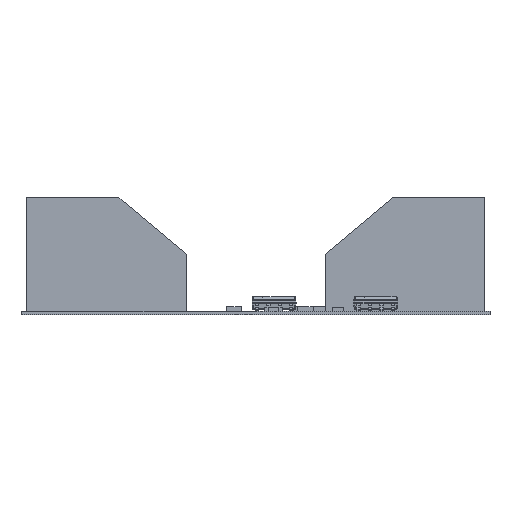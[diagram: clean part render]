
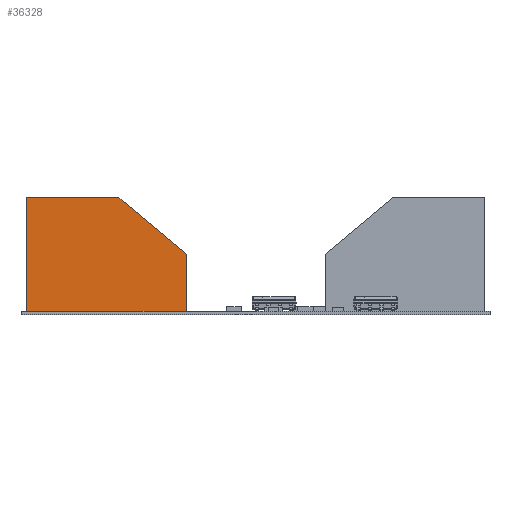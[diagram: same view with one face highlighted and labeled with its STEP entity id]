
A CAD part, left-side view. The second image highlights one B-rep face of the part: STEP entity #36328.
In plain terms, the highlighted planar face has unit normal (-1, 0, 0) as drawn and (0, 0, 1) by its records, which use the part's own axes.
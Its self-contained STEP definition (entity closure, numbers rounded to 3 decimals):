
#35765 = VERTEX_POINT('',#35766);
#35766 = CARTESIAN_POINT('',(-16.51,0.,9.525));
#35773 = PLANE('',#35774);
#35774 = AXIS2_PLACEMENT_3D('',#35775,#35776,#35777);
#35775 = CARTESIAN_POINT('',(-16.51,12.7,-3.175));
#35776 = DIRECTION('',(1.,0.,0.));
#35777 = DIRECTION('',(0.,0.,-1.));
#35785 = PLANE('',#35786);
#35786 = AXIS2_PLACEMENT_3D('',#35787,#35788,#35789);
#35787 = CARTESIAN_POINT('',(-16.51,0.,9.525));
#35788 = DIRECTION('',(0.,1.,0.));
#35789 = DIRECTION('',(0.,0.,1.));
#35797 = EDGE_CURVE('',#35798,#35765,#35800,.T.);
#35798 = VERTEX_POINT('',#35799);
#35799 = CARTESIAN_POINT('',(-16.51,12.7,9.525));
#35800 = SURFACE_CURVE('',#35801,(#35805,#35812),.PCURVE_S1.);
#35801 = LINE('',#35802,#35803);
#35802 = CARTESIAN_POINT('',(-16.51,12.7,9.525));
#35803 = VECTOR('',#35804,1.);
#35804 = DIRECTION('',(0.,-1.,0.));
#35805 = PCURVE('',#35773,#35806);
#35806 = DEFINITIONAL_REPRESENTATION('',(#35807),#35811);
#35807 = LINE('',#35808,#35809);
#35808 = CARTESIAN_POINT('',(-12.7,0.));
#35809 = VECTOR('',#35810,1.);
#35810 = DIRECTION('',(0.,-1.));
#35811 = ( GEOMETRIC_REPRESENTATION_CONTEXT(2) 
PARAMETRIC_REPRESENTATION_CONTEXT() REPRESENTATION_CONTEXT('2D SPACE',''
  ) );
#35812 = PCURVE('',#35813,#35818);
#35813 = PLANE('',#35814);
#35814 = AXIS2_PLACEMENT_3D('',#35815,#35816,#35817);
#35815 = CARTESIAN_POINT('',(-16.51,12.7,9.525));
#35816 = DIRECTION('',(0.,0.,-1.));
#35817 = DIRECTION('',(-1.,0.,0.));
#35818 = DEFINITIONAL_REPRESENTATION('',(#35819),#35823);
#35819 = LINE('',#35820,#35821);
#35820 = CARTESIAN_POINT('',(0.,0.));
#35821 = VECTOR('',#35822,1.);
#35822 = DIRECTION('',(0.,-1.));
#35823 = ( GEOMETRIC_REPRESENTATION_CONTEXT(2) 
PARAMETRIC_REPRESENTATION_CONTEXT() REPRESENTATION_CONTEXT('2D SPACE',''
  ) );
#35841 = PLANE('',#35842);
#35842 = AXIS2_PLACEMENT_3D('',#35843,#35844,#35845);
#35843 = CARTESIAN_POINT('',(-16.51,12.7,9.525));
#35844 = DIRECTION('',(0.,1.,0.));
#35845 = DIRECTION('',(0.,0.,1.));
#36328 = ADVANCED_FACE('',(#36329),#35813,.F.);
#36329 = FACE_BOUND('',#36330,.T.);
#36330 = EDGE_LOOP('',(#36331,#36361,#36382,#36383,#36406));
#36331 = ORIENTED_EDGE('',*,*,#36332,.T.);
#36332 = EDGE_CURVE('',#36333,#36335,#36337,.T.);
#36333 = VERTEX_POINT('',#36334);
#36334 = CARTESIAN_POINT('',(1.27,6.35,9.525));
#36335 = VERTEX_POINT('',#36336);
#36336 = CARTESIAN_POINT('',(-6.35,12.7,9.525));
#36337 = SURFACE_CURVE('',#36338,(#36342,#36349),.PCURVE_S1.);
#36338 = LINE('',#36339,#36340);
#36339 = CARTESIAN_POINT('',(1.27,6.35,9.525));
#36340 = VECTOR('',#36341,1.);
#36341 = DIRECTION('',(-0.768,0.64,0.));
#36342 = PCURVE('',#35813,#36343);
#36343 = DEFINITIONAL_REPRESENTATION('',(#36344),#36348);
#36344 = LINE('',#36345,#36346);
#36345 = CARTESIAN_POINT('',(-17.78,-6.35));
#36346 = VECTOR('',#36347,1.);
#36347 = DIRECTION('',(0.768,0.64));
#36348 = ( GEOMETRIC_REPRESENTATION_CONTEXT(2) 
PARAMETRIC_REPRESENTATION_CONTEXT() REPRESENTATION_CONTEXT('2D SPACE',''
  ) );
#36349 = PCURVE('',#36350,#36355);
#36350 = PLANE('',#36351);
#36351 = AXIS2_PLACEMENT_3D('',#36352,#36353,#36354);
#36352 = CARTESIAN_POINT('',(1.27,6.35,-3.175));
#36353 = DIRECTION('',(0.64,0.768,0.));
#36354 = DIRECTION('',(-0.768,0.64,0.));
#36355 = DEFINITIONAL_REPRESENTATION('',(#36356),#36360);
#36356 = LINE('',#36357,#36358);
#36357 = CARTESIAN_POINT('',(0.,12.7));
#36358 = VECTOR('',#36359,1.);
#36359 = DIRECTION('',(1.,0.));
#36360 = ( GEOMETRIC_REPRESENTATION_CONTEXT(2) 
PARAMETRIC_REPRESENTATION_CONTEXT() REPRESENTATION_CONTEXT('2D SPACE',''
  ) );
#36361 = ORIENTED_EDGE('',*,*,#36362,.F.);
#36362 = EDGE_CURVE('',#35798,#36335,#36363,.T.);
#36363 = SURFACE_CURVE('',#36364,(#36368,#36375),.PCURVE_S1.);
#36364 = LINE('',#36365,#36366);
#36365 = CARTESIAN_POINT('',(-16.51,12.7,9.525));
#36366 = VECTOR('',#36367,1.);
#36367 = DIRECTION('',(1.,0.,0.));
#36368 = PCURVE('',#35813,#36369);
#36369 = DEFINITIONAL_REPRESENTATION('',(#36370),#36374);
#36370 = LINE('',#36371,#36372);
#36371 = CARTESIAN_POINT('',(0.,0.));
#36372 = VECTOR('',#36373,1.);
#36373 = DIRECTION('',(-1.,0.));
#36374 = ( GEOMETRIC_REPRESENTATION_CONTEXT(2) 
PARAMETRIC_REPRESENTATION_CONTEXT() REPRESENTATION_CONTEXT('2D SPACE',''
  ) );
#36375 = PCURVE('',#35841,#36376);
#36376 = DEFINITIONAL_REPRESENTATION('',(#36377),#36381);
#36377 = LINE('',#36378,#36379);
#36378 = CARTESIAN_POINT('',(0.,0.));
#36379 = VECTOR('',#36380,1.);
#36380 = DIRECTION('',(0.,1.));
#36381 = ( GEOMETRIC_REPRESENTATION_CONTEXT(2) 
PARAMETRIC_REPRESENTATION_CONTEXT() REPRESENTATION_CONTEXT('2D SPACE',''
  ) );
#36382 = ORIENTED_EDGE('',*,*,#35797,.T.);
#36383 = ORIENTED_EDGE('',*,*,#36384,.T.);
#36384 = EDGE_CURVE('',#35765,#36385,#36387,.T.);
#36385 = VERTEX_POINT('',#36386);
#36386 = CARTESIAN_POINT('',(1.27,0.,9.525));
#36387 = SURFACE_CURVE('',#36388,(#36392,#36399),.PCURVE_S1.);
#36388 = LINE('',#36389,#36390);
#36389 = CARTESIAN_POINT('',(-16.51,0.,9.525));
#36390 = VECTOR('',#36391,1.);
#36391 = DIRECTION('',(1.,0.,0.));
#36392 = PCURVE('',#35813,#36393);
#36393 = DEFINITIONAL_REPRESENTATION('',(#36394),#36398);
#36394 = LINE('',#36395,#36396);
#36395 = CARTESIAN_POINT('',(0.,-12.7));
#36396 = VECTOR('',#36397,1.);
#36397 = DIRECTION('',(-1.,0.));
#36398 = ( GEOMETRIC_REPRESENTATION_CONTEXT(2) 
PARAMETRIC_REPRESENTATION_CONTEXT() REPRESENTATION_CONTEXT('2D SPACE',''
  ) );
#36399 = PCURVE('',#35785,#36400);
#36400 = DEFINITIONAL_REPRESENTATION('',(#36401),#36405);
#36401 = LINE('',#36402,#36403);
#36402 = CARTESIAN_POINT('',(0.,0.));
#36403 = VECTOR('',#36404,1.);
#36404 = DIRECTION('',(0.,1.));
#36405 = ( GEOMETRIC_REPRESENTATION_CONTEXT(2) 
PARAMETRIC_REPRESENTATION_CONTEXT() REPRESENTATION_CONTEXT('2D SPACE',''
  ) );
#36406 = ORIENTED_EDGE('',*,*,#36407,.F.);
#36407 = EDGE_CURVE('',#36333,#36385,#36408,.T.);
#36408 = SURFACE_CURVE('',#36409,(#36413,#36420),.PCURVE_S1.);
#36409 = LINE('',#36410,#36411);
#36410 = CARTESIAN_POINT('',(1.27,12.7,9.525));
#36411 = VECTOR('',#36412,1.);
#36412 = DIRECTION('',(0.,-1.,0.));
#36413 = PCURVE('',#35813,#36414);
#36414 = DEFINITIONAL_REPRESENTATION('',(#36415),#36419);
#36415 = LINE('',#36416,#36417);
#36416 = CARTESIAN_POINT('',(-17.78,0.));
#36417 = VECTOR('',#36418,1.);
#36418 = DIRECTION('',(0.,-1.));
#36419 = ( GEOMETRIC_REPRESENTATION_CONTEXT(2) 
PARAMETRIC_REPRESENTATION_CONTEXT() REPRESENTATION_CONTEXT('2D SPACE',''
  ) );
#36420 = PCURVE('',#36421,#36426);
#36421 = PLANE('',#36422);
#36422 = AXIS2_PLACEMENT_3D('',#36423,#36424,#36425);
#36423 = CARTESIAN_POINT('',(1.27,12.7,-3.175));
#36424 = DIRECTION('',(-1.,0.,0.));
#36425 = DIRECTION('',(0.,0.,1.));
#36426 = DEFINITIONAL_REPRESENTATION('',(#36427),#36431);
#36427 = LINE('',#36428,#36429);
#36428 = CARTESIAN_POINT('',(12.7,0.));
#36429 = VECTOR('',#36430,1.);
#36430 = DIRECTION('',(0.,-1.));
#36431 = ( GEOMETRIC_REPRESENTATION_CONTEXT(2) 
PARAMETRIC_REPRESENTATION_CONTEXT() REPRESENTATION_CONTEXT('2D SPACE',''
  ) );
